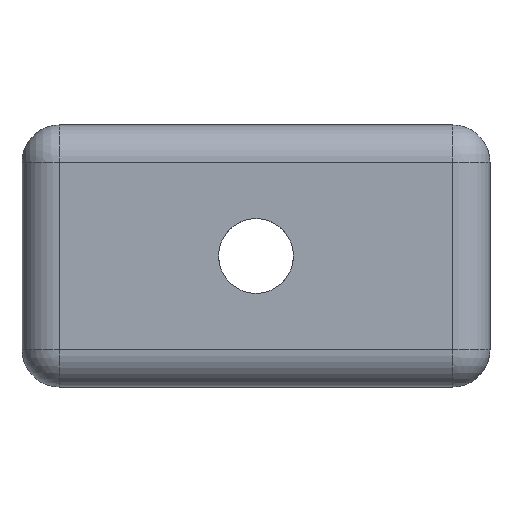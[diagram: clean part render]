
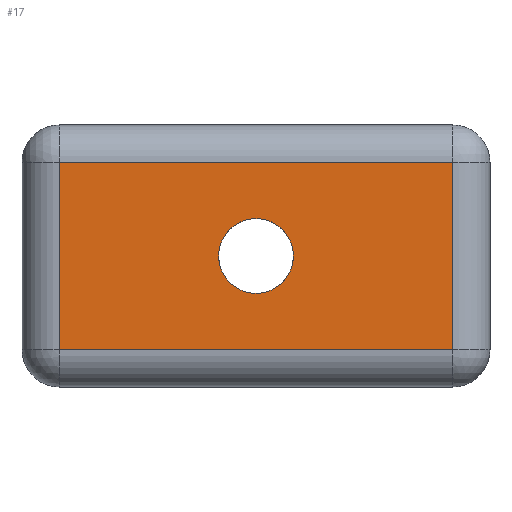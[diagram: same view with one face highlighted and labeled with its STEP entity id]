
A CAD part, left-side view. The second image highlights one B-rep face of the part: STEP entity #17.
In plain terms, the highlighted planar face has unit normal (-1, 0, 0).
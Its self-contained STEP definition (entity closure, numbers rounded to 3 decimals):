
#17 = ADVANCED_FACE('',(#18,#137),#32,.F.);
#18 = FACE_BOUND('',#19,.F.);
#19 = EDGE_LOOP('',(#20,#55,#83,#111));
#20 = ORIENTED_EDGE('',*,*,#21,.F.);
#21 = EDGE_CURVE('',#22,#24,#26,.T.);
#22 = VERTEX_POINT('',#23);
#23 = CARTESIAN_POINT('',(-20.,-10.5,-5.));
#24 = VERTEX_POINT('',#25);
#25 = CARTESIAN_POINT('',(-20.,-10.5,5.));
#26 = SURFACE_CURVE('',#27,(#31,#43),.PCURVE_S1.);
#27 = LINE('',#28,#29);
#28 = CARTESIAN_POINT('',(-20.,-10.5,-7.));
#29 = VECTOR('',#30,1.);
#30 = DIRECTION('',(0.,0.,1.));
#31 = PCURVE('',#32,#37);
#32 = PLANE('',#33);
#33 = AXIS2_PLACEMENT_3D('',#34,#35,#36);
#34 = CARTESIAN_POINT('',(-20.,-12.5,-7.));
#35 = DIRECTION('',(1.,0.,0.));
#36 = DIRECTION('',(0.,0.,1.));
#37 = DEFINITIONAL_REPRESENTATION('',(#38),#42);
#38 = LINE('',#39,#40);
#39 = CARTESIAN_POINT('',(0.,-2.));
#40 = VECTOR('',#41,1.);
#41 = DIRECTION('',(1.,0.));
#42 = ( GEOMETRIC_REPRESENTATION_CONTEXT(2) 
PARAMETRIC_REPRESENTATION_CONTEXT() REPRESENTATION_CONTEXT('2D SPACE',''
  ) );
#43 = PCURVE('',#44,#49);
#44 = CYLINDRICAL_SURFACE('',#45,2.);
#45 = AXIS2_PLACEMENT_3D('',#46,#47,#48);
#46 = CARTESIAN_POINT('',(-18.,-10.5,-7.));
#47 = DIRECTION('',(0.,0.,1.));
#48 = DIRECTION('',(-1.,-0.,0.));
#49 = DEFINITIONAL_REPRESENTATION('',(#50),#54);
#50 = LINE('',#51,#52);
#51 = CARTESIAN_POINT('',(0.,0.));
#52 = VECTOR('',#53,1.);
#53 = DIRECTION('',(0.,1.));
#54 = ( GEOMETRIC_REPRESENTATION_CONTEXT(2) 
PARAMETRIC_REPRESENTATION_CONTEXT() REPRESENTATION_CONTEXT('2D SPACE',''
  ) );
#55 = ORIENTED_EDGE('',*,*,#56,.T.);
#56 = EDGE_CURVE('',#22,#57,#59,.T.);
#57 = VERTEX_POINT('',#58);
#58 = CARTESIAN_POINT('',(-20.,10.5,-5.));
#59 = SURFACE_CURVE('',#60,(#64,#71),.PCURVE_S1.);
#60 = LINE('',#61,#62);
#61 = CARTESIAN_POINT('',(-20.,-12.5,-5.));
#62 = VECTOR('',#63,1.);
#63 = DIRECTION('',(0.,1.,0.));
#64 = PCURVE('',#32,#65);
#65 = DEFINITIONAL_REPRESENTATION('',(#66),#70);
#66 = LINE('',#67,#68);
#67 = CARTESIAN_POINT('',(2.,0.));
#68 = VECTOR('',#69,1.);
#69 = DIRECTION('',(0.,-1.));
#70 = ( GEOMETRIC_REPRESENTATION_CONTEXT(2) 
PARAMETRIC_REPRESENTATION_CONTEXT() REPRESENTATION_CONTEXT('2D SPACE',''
  ) );
#71 = PCURVE('',#72,#77);
#72 = CYLINDRICAL_SURFACE('',#73,2.);
#73 = AXIS2_PLACEMENT_3D('',#74,#75,#76);
#74 = CARTESIAN_POINT('',(-18.,-12.5,-5.));
#75 = DIRECTION('',(0.,1.,0.));
#76 = DIRECTION('',(-1.,0.,0.));
#77 = DEFINITIONAL_REPRESENTATION('',(#78),#82);
#78 = LINE('',#79,#80);
#79 = CARTESIAN_POINT('',(-0.,0.));
#80 = VECTOR('',#81,1.);
#81 = DIRECTION('',(-0.,1.));
#82 = ( GEOMETRIC_REPRESENTATION_CONTEXT(2) 
PARAMETRIC_REPRESENTATION_CONTEXT() REPRESENTATION_CONTEXT('2D SPACE',''
  ) );
#83 = ORIENTED_EDGE('',*,*,#84,.T.);
#84 = EDGE_CURVE('',#57,#85,#87,.T.);
#85 = VERTEX_POINT('',#86);
#86 = CARTESIAN_POINT('',(-20.,10.5,5.));
#87 = SURFACE_CURVE('',#88,(#92,#99),.PCURVE_S1.);
#88 = LINE('',#89,#90);
#89 = CARTESIAN_POINT('',(-20.,10.5,-7.));
#90 = VECTOR('',#91,1.);
#91 = DIRECTION('',(0.,0.,1.));
#92 = PCURVE('',#32,#93);
#93 = DEFINITIONAL_REPRESENTATION('',(#94),#98);
#94 = LINE('',#95,#96);
#95 = CARTESIAN_POINT('',(0.,-23.));
#96 = VECTOR('',#97,1.);
#97 = DIRECTION('',(1.,0.));
#98 = ( GEOMETRIC_REPRESENTATION_CONTEXT(2) 
PARAMETRIC_REPRESENTATION_CONTEXT() REPRESENTATION_CONTEXT('2D SPACE',''
  ) );
#99 = PCURVE('',#100,#105);
#100 = CYLINDRICAL_SURFACE('',#101,2.);
#101 = AXIS2_PLACEMENT_3D('',#102,#103,#104);
#102 = CARTESIAN_POINT('',(-18.,10.5,-7.));
#103 = DIRECTION('',(0.,0.,1.));
#104 = DIRECTION('',(-1.,-0.,0.));
#105 = DEFINITIONAL_REPRESENTATION('',(#106),#110);
#106 = LINE('',#107,#108);
#107 = CARTESIAN_POINT('',(-0.,0.));
#108 = VECTOR('',#109,1.);
#109 = DIRECTION('',(-0.,1.));
#110 = ( GEOMETRIC_REPRESENTATION_CONTEXT(2) 
PARAMETRIC_REPRESENTATION_CONTEXT() REPRESENTATION_CONTEXT('2D SPACE',''
  ) );
#111 = ORIENTED_EDGE('',*,*,#112,.F.);
#112 = EDGE_CURVE('',#24,#85,#113,.T.);
#113 = SURFACE_CURVE('',#114,(#118,#125),.PCURVE_S1.);
#114 = LINE('',#115,#116);
#115 = CARTESIAN_POINT('',(-20.,-12.5,5.));
#116 = VECTOR('',#117,1.);
#117 = DIRECTION('',(0.,1.,0.));
#118 = PCURVE('',#32,#119);
#119 = DEFINITIONAL_REPRESENTATION('',(#120),#124);
#120 = LINE('',#121,#122);
#121 = CARTESIAN_POINT('',(12.,0.));
#122 = VECTOR('',#123,1.);
#123 = DIRECTION('',(0.,-1.));
#124 = ( GEOMETRIC_REPRESENTATION_CONTEXT(2) 
PARAMETRIC_REPRESENTATION_CONTEXT() REPRESENTATION_CONTEXT('2D SPACE',''
  ) );
#125 = PCURVE('',#126,#131);
#126 = CYLINDRICAL_SURFACE('',#127,2.);
#127 = AXIS2_PLACEMENT_3D('',#128,#129,#130);
#128 = CARTESIAN_POINT('',(-18.,-12.5,5.));
#129 = DIRECTION('',(0.,1.,0.));
#130 = DIRECTION('',(-1.,0.,0.));
#131 = DEFINITIONAL_REPRESENTATION('',(#132),#136);
#132 = LINE('',#133,#134);
#133 = CARTESIAN_POINT('',(0.,0.));
#134 = VECTOR('',#135,1.);
#135 = DIRECTION('',(0.,1.));
#136 = ( GEOMETRIC_REPRESENTATION_CONTEXT(2) 
PARAMETRIC_REPRESENTATION_CONTEXT() REPRESENTATION_CONTEXT('2D SPACE',''
  ) );
#137 = FACE_BOUND('',#138,.F.);
#138 = EDGE_LOOP('',(#139));
#139 = ORIENTED_EDGE('',*,*,#140,.F.);
#140 = EDGE_CURVE('',#141,#141,#143,.T.);
#141 = VERTEX_POINT('',#142);
#142 = CARTESIAN_POINT('',(-20.,0.,2.));
#143 = SURFACE_CURVE('',#144,(#149,#156),.PCURVE_S1.);
#144 = CIRCLE('',#145,2.);
#145 = AXIS2_PLACEMENT_3D('',#146,#147,#148);
#146 = CARTESIAN_POINT('',(-20.,0.,0.));
#147 = DIRECTION('',(1.,0.,0.));
#148 = DIRECTION('',(-0.,0.,1.));
#149 = PCURVE('',#32,#150);
#150 = DEFINITIONAL_REPRESENTATION('',(#151),#155);
#151 = CIRCLE('',#152,2.);
#152 = AXIS2_PLACEMENT_2D('',#153,#154);
#153 = CARTESIAN_POINT('',(7.,-12.5));
#154 = DIRECTION('',(1.,0.));
#155 = ( GEOMETRIC_REPRESENTATION_CONTEXT(2) 
PARAMETRIC_REPRESENTATION_CONTEXT() REPRESENTATION_CONTEXT('2D SPACE',''
  ) );
#156 = PCURVE('',#157,#162);
#157 = CYLINDRICAL_SURFACE('',#158,2.);
#158 = AXIS2_PLACEMENT_3D('',#159,#160,#161);
#159 = CARTESIAN_POINT('',(-24.,0.,0.));
#160 = DIRECTION('',(1.,0.,0.));
#161 = DIRECTION('',(-0.,0.,1.));
#162 = DEFINITIONAL_REPRESENTATION('',(#163),#167);
#163 = LINE('',#164,#165);
#164 = CARTESIAN_POINT('',(0.,4.));
#165 = VECTOR('',#166,1.);
#166 = DIRECTION('',(1.,0.));
#167 = ( GEOMETRIC_REPRESENTATION_CONTEXT(2) 
PARAMETRIC_REPRESENTATION_CONTEXT() REPRESENTATION_CONTEXT('2D SPACE',''
  ) );
